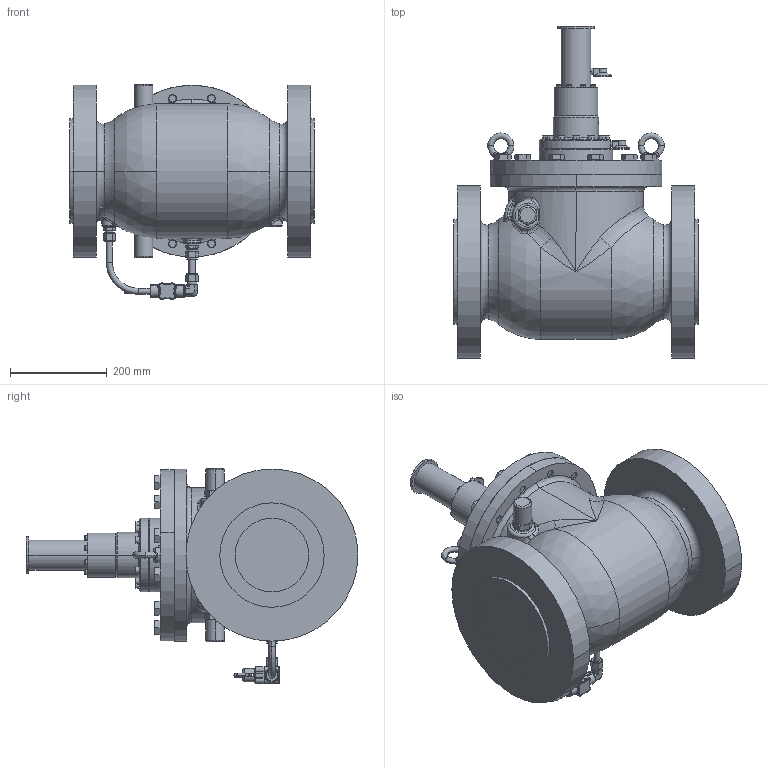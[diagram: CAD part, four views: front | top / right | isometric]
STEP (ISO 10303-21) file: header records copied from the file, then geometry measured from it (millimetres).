
FILE_DESCRIPTION((''),'2;1');
FILE_NAME('126019_GIPS_HL_6-600_SW0002','2019-09-10T',('jjunior'),(''),'PRO/ENGINEER BY PARAMETRIC TECHNOLOGY CORPORATION, 2010160','PRO/ENGINEER BY PARAMETRIC TECHNOLOGY CORPORATION, 2010160','');
FILE_SCHEMA(('CONFIG_CONTROL_DESIGN'));
Products named in the file (1): 126019_GIPS_HL_6-600_SW0002
Bounding box: 505 x 686.8 x 444.87 mm (x, y, z)
Volume: 20852150 mm3; surface area: 1879815.7 mm2
Topology: 1 solids, 7 shells, 1889 faces, 4440 edges, 2699 vertices
Faces by surface type: plane 565, cylinder 558, cone 343, torus 238, bspline 174, sphere 11
Entity records: 76293 total; most frequent: CARTESIAN_POINT 33941, DIRECTION 8877, ORIENTED_EDGE 8824, EDGE_CURVE 4412, AXIS2_PLACEMENT_3D 3637, VERTEX_POINT 2699, EDGE_LOOP 2109, CIRCLE 1922
